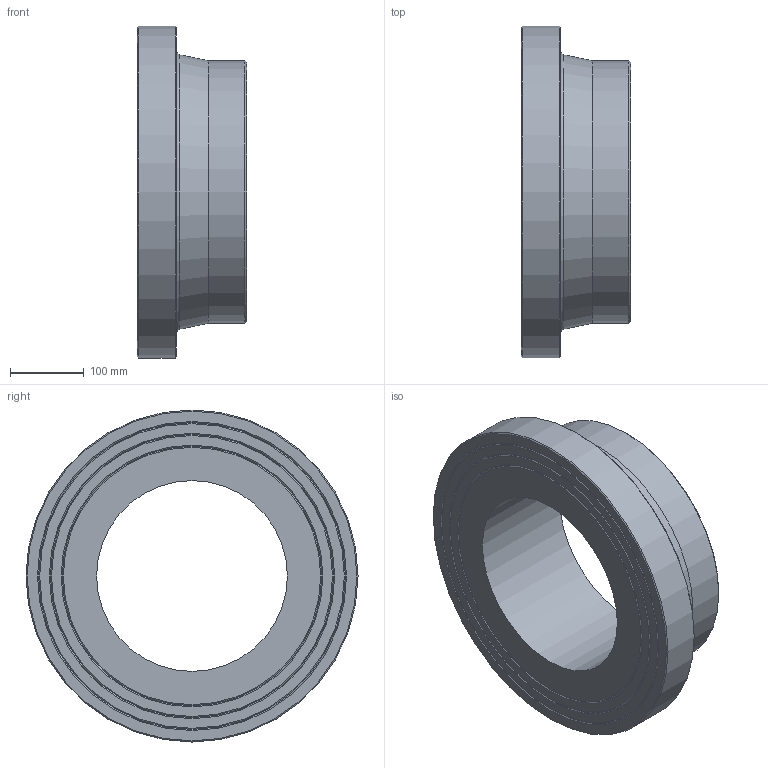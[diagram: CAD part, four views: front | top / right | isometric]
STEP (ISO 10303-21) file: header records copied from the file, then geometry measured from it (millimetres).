
FILE_DESCRIPTION(/* description */ ('Unknown'),/* implementation_level */ '2;1');
FILE_NAME(/* name */ 'CCP355H',/* time_stamp */ '2022-04-04T12:27:45+02:00',/* author */ ('Unknown'),/* organization */ ('Unknown'),/* preprocessor_version */ 'ST-DEVELOPER v18.1',/* originating_system */ 'Solid Edge',/* authorisation */ 'Unknown');
FILE_SCHEMA (('AUTOMOTIVE_DESIGN {1 0 10303 214 3 1 1}'));
Length unit declared in the file: millimetre
Products named in the file (1): CCP355H
Bounding box: 148 x 449 x 449 mm (x, y, z)
Volume: 10269991.3 mm3; surface area: 501429.6 mm2
Topology: 1 solids, 1 shells, 20 faces, 35 edges, 21 vertices
Faces by surface type: cone 10, plane 6, cylinder 3, torus 1
Full cylindrical faces by diameter (mm): 258 x1, 355 x1, 449 x1
Entity records: 438 total; most frequent: DIRECTION 82, CARTESIAN_POINT 61, AXIS2_PLACEMENT_3D 41, ORIENTED_EDGE 40, EDGE_LOOP 40, FACE_BOUND 40, EDGE_CURVE 20, VERTEX_POINT 20
